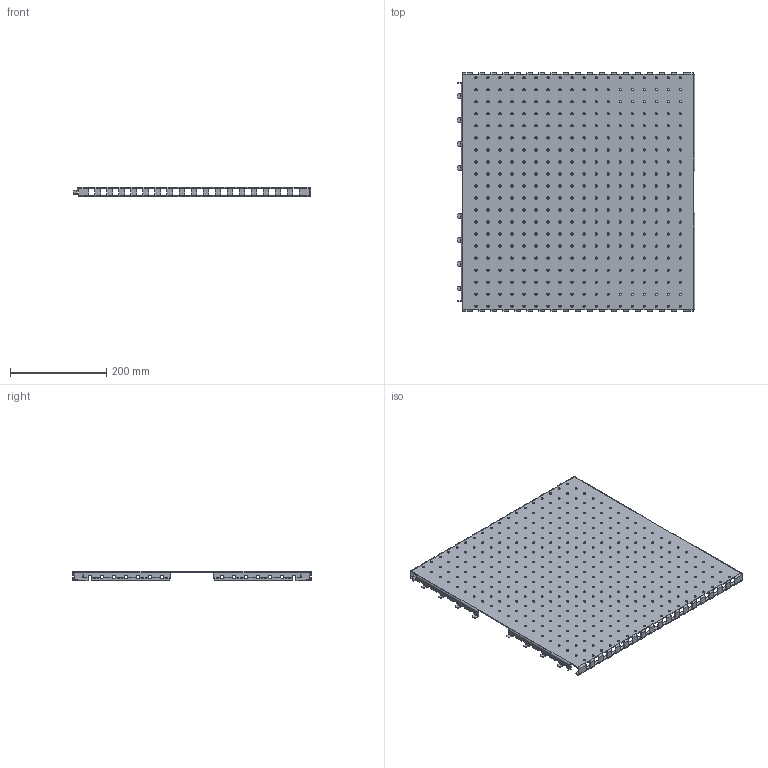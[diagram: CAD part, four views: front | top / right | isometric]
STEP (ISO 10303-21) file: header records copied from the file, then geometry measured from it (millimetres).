
FILE_DESCRIPTION(('STEP AP203'), '1');
FILE_NAME('Îãðàæäåíèå ñáîðíîé øèíû áîêîâîå ìîíòàæíîå 500õ600 ìì OptiBox M 419301 ÊÝÀÇ', '', ('UNSPECIFIED'), ('UNSPECIFIED'), 'C3D Converter', 'C3D Toolkit', '');
FILE_SCHEMA(('CONFIG_CONTROL_DESIGN'));
Length unit declared in the file: millimetre
Bounding box: 494.3 x 497 x 20 mm (x, y, z)
Volume: 516236.4 mm3; surface area: 536977.5 mm2
Topology: 1 solids, 1 shells, 952 faces, 2654 edges, 1632 vertices
Faces by surface type: cylinder 570, plane 382
Full cylindrical faces by diameter (mm): 4.6 x360, 7.3 x12
Entity records: 30274 total; most frequent: DIRECTION 5328, CARTESIAN_POINT 4867, ORIENTED_EDGE 4564, EDGE_CURVE 2282, AXIS2_PLACEMENT_3D 2093, EDGE_LOOP 2068, VERTEX_POINT 1632, FACE_BOUND 1324
